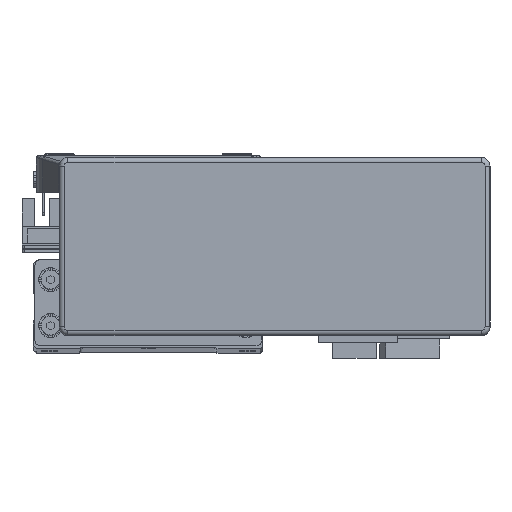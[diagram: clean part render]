
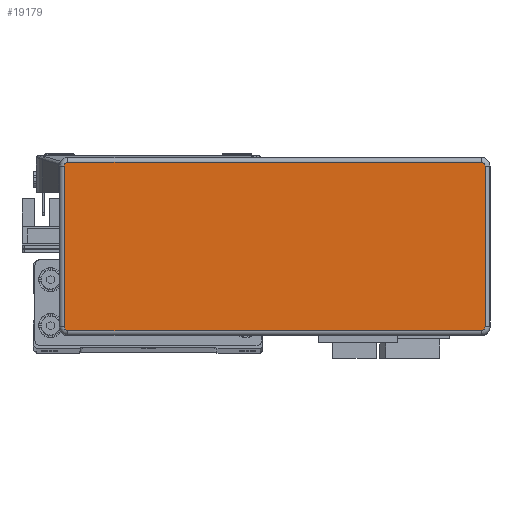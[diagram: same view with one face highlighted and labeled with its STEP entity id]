
A CAD part, top view. The second image highlights one B-rep face of the part: STEP entity #19179.
In plain terms, the highlighted planar face has unit normal (0, 0, 1) as drawn and (0, 0, -1) by its records, which use the part's own axes.
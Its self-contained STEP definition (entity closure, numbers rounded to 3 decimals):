
#3296 = ORIENTED_EDGE ( 'NONE', *, *, #29031, .T. ) ;
#3299 = ORIENTED_EDGE ( 'NONE', *, *, #29104, .T. ) ;
#3301 = ORIENTED_EDGE ( 'NONE', *, *, #29026, .T. ) ;
#3306 = ORIENTED_EDGE ( 'NONE', *, *, #29085, .T. ) ;
#3319 = ORIENTED_EDGE ( 'NONE', *, *, #29029, .T. ) ;
#3340 = ORIENTED_EDGE ( 'NONE', *, *, #29035, .T. ) ;
#3341 = ORIENTED_EDGE ( 'NONE', *, *, #29046, .T. ) ;
#3345 = ORIENTED_EDGE ( 'NONE', *, *, #29064, .T. ) ;
#10807 = PLANE ( 'NONE',  #32705 ) ;
#10925 = DIRECTION ( 'NONE',  ( 0., 0., 1. ) ) ;
#11004 = DIRECTION ( 'NONE',  ( 1., 0., 0. ) ) ;
#11043 = CARTESIAN_POINT ( 'NONE',  ( 71.995, -27.995, -32.2 ) ) ;
#19179 = ADVANCED_FACE ( 'NONE', ( #32561 ), #10807, .F. ) ;
#22101 = LINE ( 'NONE', #36884, #22105 ) ;
#22105 = VECTOR ( 'NONE', #36885, 1000. ) ;
#22118 = VECTOR ( 'NONE', #36971, 1000. ) ;
#22119 = VECTOR ( 'NONE', #36905, 1000. ) ;
#22134 = CIRCLE ( 'NONE', #42867, 1.3 ) ;
#22135 = VECTOR ( 'NONE', #36908, 1000. ) ;
#22139 = LINE ( 'NONE', #36992, #22118 ) ;
#22143 = CIRCLE ( 'NONE', #42820, 1.3 ) ;
#22145 = LINE ( 'NONE', #36899, #22119 ) ;
#22167 = LINE ( 'NONE', #36901, #22135 ) ;
#22195 = CIRCLE ( 'NONE', #42888, 1.3 ) ;
#22196 = CIRCLE ( 'NONE', #42846, 1.3 ) ;
#29026 = EDGE_CURVE ( 'NONE', #43328, #43315, #22101, .T. ) ;
#29029 = EDGE_CURVE ( 'NONE', #43304, #43334, #22145, .T. ) ;
#29031 = EDGE_CURVE ( 'NONE', #43334, #43240, #22134, .T. ) ;
#29035 = EDGE_CURVE ( 'NONE', #43238, #43201, #22167, .T. ) ;
#29046 = EDGE_CURVE ( 'NONE', #43240, #43281, #22139, .T. ) ;
#29064 = EDGE_CURVE ( 'NONE', #43315, #43238, #22143, .T. ) ;
#29085 = EDGE_CURVE ( 'NONE', #43281, #43328, #22196, .T. ) ;
#29104 = EDGE_CURVE ( 'NONE', #43201, #43304, #22195, .T. ) ;
#32561 = FACE_OUTER_BOUND ( 'NONE', #42607, .T. ) ;
#32705 = AXIS2_PLACEMENT_3D ( 'NONE', #11043, #10925, #11004 ) ;
#36881 = DIRECTION ( 'NONE',  ( 1., 0., 0. ) ) ;
#36884 = CARTESIAN_POINT ( 'NONE',  ( -73.295, -27.995, -32.2 ) ) ;
#36885 = DIRECTION ( 'NONE',  ( 0., 1., 0. ) ) ;
#36899 = CARTESIAN_POINT ( 'NONE',  ( 73.295, -27.995, -32.2 ) ) ;
#36900 = DIRECTION ( 'NONE',  ( 0., 0., -1. ) ) ;
#36901 = CARTESIAN_POINT ( 'NONE',  ( 71.995, 29.295, -32.2 ) ) ;
#36905 = DIRECTION ( 'NONE',  ( 0., -1., 0. ) ) ;
#36906 = CARTESIAN_POINT ( 'NONE',  ( 71.995, -27.995, -32.2 ) ) ;
#36908 = DIRECTION ( 'NONE',  ( 1., 0., 0. ) ) ;
#36971 = DIRECTION ( 'NONE',  ( -1., 0., 0. ) ) ;
#36992 = CARTESIAN_POINT ( 'NONE',  ( 71.995, -29.295, -32.2 ) ) ;
#37026 = DIRECTION ( 'NONE',  ( 0., 0., -1. ) ) ;
#37041 = CARTESIAN_POINT ( 'NONE',  ( -71.995, 27.995, -32.2 ) ) ;
#37042 = DIRECTION ( 'NONE',  ( 1., 0., 0. ) ) ;
#37101 = DIRECTION ( 'NONE',  ( 1., 0., 0. ) ) ;
#37112 = CARTESIAN_POINT ( 'NONE',  ( -71.995, -27.995, -32.2 ) ) ;
#37119 = DIRECTION ( 'NONE',  ( 0., 0., -1. ) ) ;
#37136 = CARTESIAN_POINT ( 'NONE',  ( 71.995, 27.995, -32.2 ) ) ;
#37137 = DIRECTION ( 'NONE',  ( 1., 0., 0. ) ) ;
#37140 = DIRECTION ( 'NONE',  ( 0., 0., -1. ) ) ;
#42607 = EDGE_LOOP ( 'NONE', ( #3319, #3296, #3341, #3306, #3301, #3345, #3340, #3299 ) ) ;
#42820 = AXIS2_PLACEMENT_3D ( 'NONE', #37041, #37026, #37042 ) ;
#42846 = AXIS2_PLACEMENT_3D ( 'NONE', #37112, #37119, #37101 ) ;
#42867 = AXIS2_PLACEMENT_3D ( 'NONE', #36906, #36900, #36881 ) ;
#42888 = AXIS2_PLACEMENT_3D ( 'NONE', #37136, #37140, #37137 ) ;
#43201 = VERTEX_POINT ( 'NONE', #48084 ) ;
#43238 = VERTEX_POINT ( 'NONE', #48121 ) ;
#43240 = VERTEX_POINT ( 'NONE', #48087 ) ;
#43281 = VERTEX_POINT ( 'NONE', #48112 ) ;
#43304 = VERTEX_POINT ( 'NONE', #48148 ) ;
#43315 = VERTEX_POINT ( 'NONE', #48113 ) ;
#43328 = VERTEX_POINT ( 'NONE', #48114 ) ;
#43334 = VERTEX_POINT ( 'NONE', #48126 ) ;
#48084 = CARTESIAN_POINT ( 'NONE',  ( 71.995, 29.295, -32.2 ) ) ;
#48087 = CARTESIAN_POINT ( 'NONE',  ( 71.995, -29.295, -32.2 ) ) ;
#48112 = CARTESIAN_POINT ( 'NONE',  ( -71.995, -29.295, -32.2 ) ) ;
#48113 = CARTESIAN_POINT ( 'NONE',  ( -73.295, 27.995, -32.2 ) ) ;
#48114 = CARTESIAN_POINT ( 'NONE',  ( -73.295, -27.995, -32.2 ) ) ;
#48121 = CARTESIAN_POINT ( 'NONE',  ( -71.995, 29.295, -32.2 ) ) ;
#48126 = CARTESIAN_POINT ( 'NONE',  ( 73.295, -27.995, -32.2 ) ) ;
#48148 = CARTESIAN_POINT ( 'NONE',  ( 73.295, 27.995, -32.2 ) ) ;
